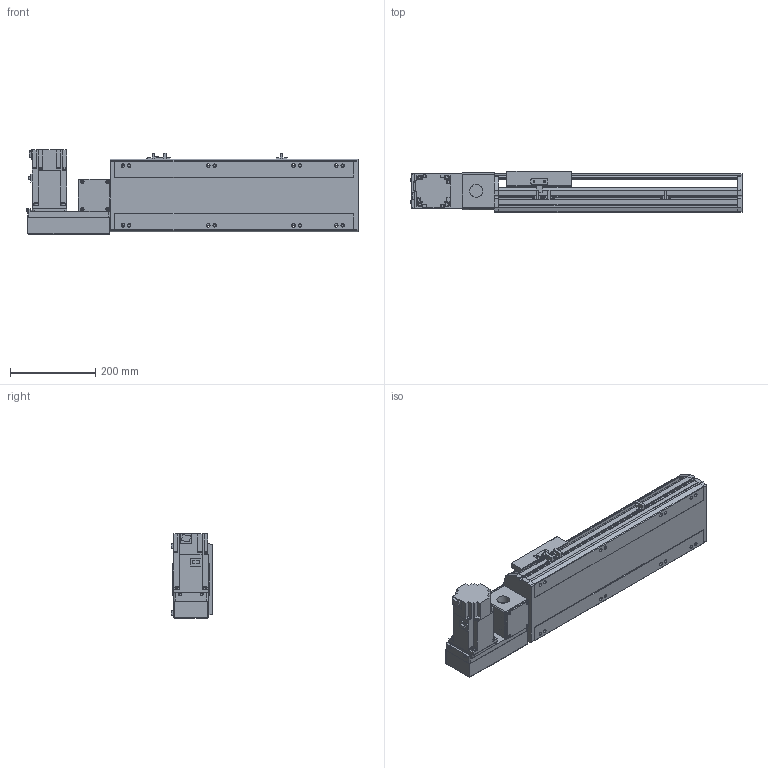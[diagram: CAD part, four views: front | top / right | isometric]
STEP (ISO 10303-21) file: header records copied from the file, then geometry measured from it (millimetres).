
FILE_DESCRIPTION( ( 'STEP AP214' ), '1' );
FILE_NAME( 'x:/temp/worker_4/temp/exporttempdir_2248_192_dZA2x/format_0/PBS170-P40-S300-L-T75-C1-N(0).stp', '2022-06-07T06:33:44', ( 'License CC BY-ND 4.0' ), ( 'CADENAS' ), ' ', 'PARTsolutions', ' ' );
FILE_SCHEMA( ( 'AUTOMOTIVE_DESIGN { 1 0 10303 214 1 1 1 1 }' ) );
Length unit declared in the file: millimetre
Products named in the file (7): PBS170-P40-S300-L-T75-C1-N(0); _PBS170-S300()_body; _PBS170T-L_motors; _T75-p1; _PBS170_sliser; _PBS170_plant; _PBS170_sensor
Assembly tree (8 placements, depth 2):
  PBS170-P40-S300-L-T75-C1-N(0)
    _PBS170-S300()_body
    _PBS170T-L_motors
    _T75-p1
    _PBS170_sliser
    _PBS170_plant
    _PBS170_sensor  x3
Bounding box: 778 x 97 x 197.3 mm (x, y, z)
Volume: 6001633.9 mm3; surface area: 838828 mm2
Topology: 8 solids, 8 shells, 1018 faces, 2715 edges, 1770 vertices
Faces by surface type: plane 663, cylinder 307, cone 38, sphere 8, torus 2
Full cylindrical faces by diameter (mm): 3.242 x4, 4 x2, 4.4 x4, 4.5 x6, 4.917 x4, 6 x9, 6.647 x16, 7 x2, 7.5 x4, 8 x8, 8.5 x8, 10 x4, 10.5 x8, 11 x2, 30 x2, 40 x1, 70 x1
Entity records: 37172 total; most frequent: CARTESIAN_POINT 5549, DIRECTION 5020, ORIENTED_EDGE 4788, EDGE_CURVE 2394, AXIS2_PLACEMENT_3D 1717, VERTEX_POINT 1634, LINE 1586, VECTOR 1586
